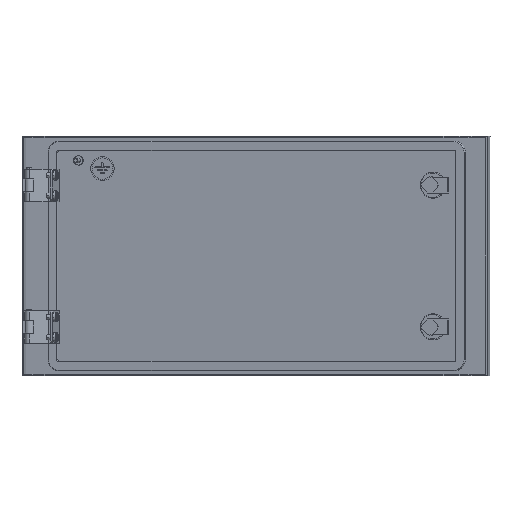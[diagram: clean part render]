
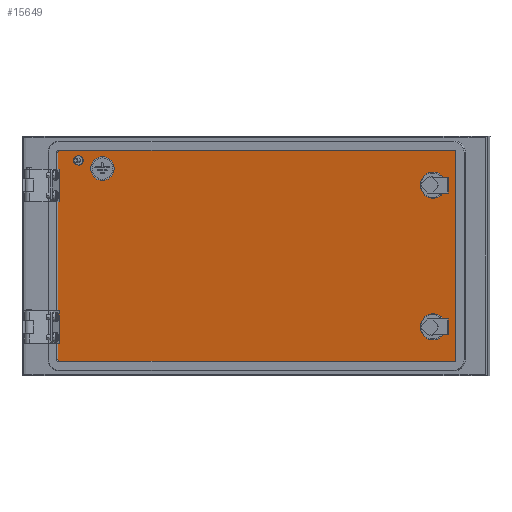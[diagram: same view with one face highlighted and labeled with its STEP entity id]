
A CAD part, left-side view. The second image highlights one B-rep face of the part: STEP entity #15649.
In plain terms, the highlighted planar face has unit normal (-0.966, 0.259, 0).
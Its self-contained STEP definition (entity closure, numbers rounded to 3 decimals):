
#82 = DIRECTION ( 'NONE',  ( -0.966, 0.259, 0. ) ) ;
#333 = CIRCLE ( 'NONE', #9699, 16. ) ;
#526 = VERTEX_POINT ( 'NONE', #2075 ) ;
#841 = LINE ( 'NONE', #3754, #7062 ) ;
#845 = EDGE_LOOP ( 'NONE', ( #6889, #17902 ) ) ;
#926 = CARTESIAN_POINT ( 'NONE',  ( 64.256, 218.327, 117.012 ) ) ;
#1052 = DIRECTION ( 'NONE',  ( 0.259, 0.966, 0. ) ) ;
#1316 = CARTESIAN_POINT ( 'NONE',  ( 70.721, 242.477, 129.012 ) ) ;
#1548 = CARTESIAN_POINT ( 'NONE',  ( 70.721, 242.477, -128.988 ) ) ;
#2075 = CARTESIAN_POINT ( 'NONE',  ( 71.238, 244.409, -128.988 ) ) ;
#2294 = CARTESIAN_POINT ( 'NONE',  ( -52.879, -219.267, 86.512 ) ) ;
#2305 = ORIENTED_EDGE ( 'NONE', *, *, #20624, .F. ) ;
#2410 = DIRECTION ( 'NONE',  ( -0.966, 0.259, 0. ) ) ;
#2488 = CARTESIAN_POINT ( 'NONE',  ( -59.86, -245.349, 129.012 ) ) ;
#2516 = DIRECTION ( 'NONE',  ( 0., 0., -1. ) ) ;
#2529 = CARTESIAN_POINT ( 'NONE',  ( 64.92, 220.804, 117.679 ) ) ;
#2620 = CARTESIAN_POINT ( 'NONE',  ( -52.879, -219.267, -88.488 ) ) ;
#2625 = ORIENTED_EDGE ( 'NONE', *, *, #16552, .F. ) ;
#2691 = DIRECTION ( 'NONE',  ( 0.966, -0.259, 0. ) ) ;
#2927 = AXIS2_PLACEMENT_3D ( 'NONE', #8180, #14784, #12990 ) ;
#2975 = ORIENTED_EDGE ( 'NONE', *, *, #12901, .F. ) ;
#2977 = LINE ( 'NONE', #1316, #17827 ) ;
#3293 = DIRECTION ( 'NONE',  ( -0.966, 0.259, 0. ) ) ;
#3461 = AXIS2_PLACEMENT_3D ( 'NONE', #10222, #13570, #3819 ) ;
#3754 = CARTESIAN_POINT ( 'NONE',  ( 70.721, 242.477, -130.988 ) ) ;
#3767 = AXIS2_PLACEMENT_3D ( 'NONE', #7883, #2410, #2516 ) ;
#3792 = EDGE_CURVE ( 'NONE', #5331, #20006, #2977, .T. ) ;
#3819 = DIRECTION ( 'NONE',  ( 0.259, 0.966, 0. ) ) ;
#3956 = AXIS2_PLACEMENT_3D ( 'NONE', #10422, #18527, #20208 ) ;
#3961 = CARTESIAN_POINT ( 'NONE',  ( 63.593, 215.849, 116.346 ) ) ;
#3977 = DIRECTION ( 'NONE',  ( -0.966, 0.259, 0. ) ) ;
#4160 = DIRECTION ( 'NONE',  ( 0., 0., -1. ) ) ;
#4163 = CARTESIAN_POINT ( 'NONE',  ( 70.721, 242.477, -130.988 ) ) ;
#4292 = AXIS2_PLACEMENT_3D ( 'NONE', #20129, #2691, #13700 ) ;
#4427 = ORIENTED_EDGE ( 'NONE', *, *, #10398, .F. ) ;
#4484 = ORIENTED_EDGE ( 'NONE', *, *, #15399, .F. ) ;
#4639 = CARTESIAN_POINT ( 'NONE',  ( 70.721, 242.477, 129.012 ) ) ;
#4782 = CIRCLE ( 'NONE', #15844, 15. ) ;
#4992 = FACE_BOUND ( 'NONE', #845, .T. ) ;
#5189 = EDGE_LOOP ( 'NONE', ( #8443, #4427 ) ) ;
#5190 = ORIENTED_EDGE ( 'NONE', *, *, #7684, .F. ) ;
#5331 = VERTEX_POINT ( 'NONE', #4639 ) ;
#5414 = AXIS2_PLACEMENT_3D ( 'NONE', #926, #9291, #5927 ) ;
#5596 = VERTEX_POINT ( 'NONE', #2529 ) ;
#5614 = EDGE_CURVE ( 'NONE', #17210, #11796, #333, .T. ) ;
#5638 = CARTESIAN_POINT ( 'NONE',  ( -60.378, -247.281, -128.988 ) ) ;
#5751 = DIRECTION ( 'NONE',  ( -0.966, 0.259, 0. ) ) ;
#5840 = VERTEX_POINT ( 'NONE', #3961 ) ;
#5927 = DIRECTION ( 'NONE',  ( 0.259, 0.966, 0. ) ) ;
#6306 = CARTESIAN_POINT ( 'NONE',  ( -60.378, -247.281, 127.012 ) ) ;
#6406 = CARTESIAN_POINT ( 'NONE',  ( -48.742, -203.811, -88.488 ) ) ;
#6572 = EDGE_CURVE ( 'NONE', #12644, #10261, #841, .T. ) ;
#6574 = FACE_OUTER_BOUND ( 'NONE', #19882, .T. ) ;
#6694 = CIRCLE ( 'NONE', #7375, 16. ) ;
#6766 = VERTEX_POINT ( 'NONE', #7728 ) ;
#6800 = VERTEX_POINT ( 'NONE', #9702 ) ;
#6889 = ORIENTED_EDGE ( 'NONE', *, *, #5614, .F. ) ;
#7062 = VECTOR ( 'NONE', #8478, 1000. ) ;
#7150 = CIRCLE ( 'NONE', #3461, 16. ) ;
#7375 = AXIS2_PLACEMENT_3D ( 'NONE', #2294, #5751, #10580 ) ;
#7476 = ORIENTED_EDGE ( 'NONE', *, *, #10311, .T. ) ;
#7684 = EDGE_CURVE ( 'NONE', #19400, #7719, #14181, .T. ) ;
#7719 = VERTEX_POINT ( 'NONE', #5638 ) ;
#7728 = CARTESIAN_POINT ( 'NONE',  ( -57.016, -234.723, 86.512 ) ) ;
#7883 = CARTESIAN_POINT ( 'NONE',  ( -59.86, -245.349, -128.988 ) ) ;
#8180 = CARTESIAN_POINT ( 'NONE',  ( -59.86, -245.349, 127.012 ) ) ;
#8443 = ORIENTED_EDGE ( 'NONE', *, *, #20266, .F. ) ;
#8478 = DIRECTION ( 'NONE',  ( -0.259, -0.966, 0. ) ) ;
#8772 = CARTESIAN_POINT ( 'NONE',  ( -11.765, -65.674, 790.512 ) ) ;
#9291 = DIRECTION ( 'NONE',  ( -0.966, 0.259, 0. ) ) ;
#9308 = CIRCLE ( 'NONE', #4292, 2. ) ;
#9329 = CIRCLE ( 'NONE', #18735, 2. ) ;
#9428 = VECTOR ( 'NONE', #16658, 1000. ) ;
#9699 = AXIS2_PLACEMENT_3D ( 'NONE', #13749, #20177, #19217 ) ;
#9702 = CARTESIAN_POINT ( 'NONE',  ( -48.742, -203.811, 86.512 ) ) ;
#10161 = LINE ( 'NONE', #13187, #9428 ) ;
#10222 = CARTESIAN_POINT ( 'NONE',  ( -52.879, -219.267, 86.512 ) ) ;
#10261 = VERTEX_POINT ( 'NONE', #18894 ) ;
#10267 = EDGE_CURVE ( 'NONE', #5596, #5840, #14350, .T. ) ;
#10311 = EDGE_CURVE ( 'NONE', #526, #12644, #9329, .T. ) ;
#10320 = CIRCLE ( 'NONE', #3956, 15. ) ;
#10398 = EDGE_CURVE ( 'NONE', #14526, #11719, #10320, .T. ) ;
#10422 = CARTESIAN_POINT ( 'NONE',  ( 56.499, 189.347, 107.012 ) ) ;
#10580 = DIRECTION ( 'NONE',  ( 0.259, 0.966, 0. ) ) ;
#10638 = AXIS2_PLACEMENT_3D ( 'NONE', #2620, #3977, #13735 ) ;
#11393 = FACE_BOUND ( 'NONE', #14511, .T. ) ;
#11627 = EDGE_CURVE ( 'NONE', #5840, #5596, #14460, .T. ) ;
#11719 = VERTEX_POINT ( 'NONE', #19786 ) ;
#11796 = VERTEX_POINT ( 'NONE', #15146 ) ;
#11911 = VECTOR ( 'NONE', #19035, 1000. ) ;
#12016 = PLANE ( 'NONE',  #13394 ) ;
#12227 = FACE_BOUND ( 'NONE', #5189, .T. ) ;
#12601 = CARTESIAN_POINT ( 'NONE',  ( -60.378, -247.281, 127.012 ) ) ;
#12644 = VERTEX_POINT ( 'NONE', #4163 ) ;
#12825 = DIRECTION ( 'NONE',  ( -0.259, -0.966, 0. ) ) ;
#12851 = ORIENTED_EDGE ( 'NONE', *, *, #10267, .F. ) ;
#12901 = EDGE_CURVE ( 'NONE', #6800, #6766, #7150, .T. ) ;
#12938 = DIRECTION ( 'NONE',  ( 0.259, 0.966, 0. ) ) ;
#12990 = DIRECTION ( 'NONE',  ( 0., 0., 1. ) ) ;
#13076 = EDGE_LOOP ( 'NONE', ( #16537, #12851 ) ) ;
#13177 = CARTESIAN_POINT ( 'NONE',  ( 71.238, 244.409, 127.012 ) ) ;
#13187 = CARTESIAN_POINT ( 'NONE',  ( 71.238, 244.409, -0.988 ) ) ;
#13394 = AXIS2_PLACEMENT_3D ( 'NONE', #8772, #18437, #4160 ) ;
#13570 = DIRECTION ( 'NONE',  ( -0.966, 0.259, 0. ) ) ;
#13700 = DIRECTION ( 'NONE',  ( 0.259, 0.966, 0. ) ) ;
#13735 = DIRECTION ( 'NONE',  ( 0.259, 0.966, 0. ) ) ;
#13749 = CARTESIAN_POINT ( 'NONE',  ( -52.879, -219.267, -88.488 ) ) ;
#14181 = LINE ( 'NONE', #12601, #11911 ) ;
#14309 = CIRCLE ( 'NONE', #2927, 2. ) ;
#14350 = CIRCLE ( 'NONE', #15023, 2.65 ) ;
#14460 = CIRCLE ( 'NONE', #5414, 2.65 ) ;
#14511 = EDGE_LOOP ( 'NONE', ( #2975, #4484 ) ) ;
#14526 = VERTEX_POINT ( 'NONE', #18777 ) ;
#14784 = DIRECTION ( 'NONE',  ( 0.966, -0.259, 0. ) ) ;
#15023 = AXIS2_PLACEMENT_3D ( 'NONE', #16988, #15403, #1052 ) ;
#15146 = CARTESIAN_POINT ( 'NONE',  ( -57.016, -234.723, -88.488 ) ) ;
#15399 = EDGE_CURVE ( 'NONE', #6766, #6800, #6694, .T. ) ;
#15403 = DIRECTION ( 'NONE',  ( -0.966, 0.259, 0. ) ) ;
#15649 = ADVANCED_FACE ( 'NONE', ( #6574, #4992, #11393, #17808, #12227 ), #12016, .F. ) ;
#15844 = AXIS2_PLACEMENT_3D ( 'NONE', #17899, #3293, #12938 ) ;
#15872 = ORIENTED_EDGE ( 'NONE', *, *, #18581, .F. ) ;
#16514 = VERTEX_POINT ( 'NONE', #13177 ) ;
#16537 = ORIENTED_EDGE ( 'NONE', *, *, #11627, .F. ) ;
#16552 = EDGE_CURVE ( 'NONE', #16514, #5331, #9308, .T. ) ;
#16658 = DIRECTION ( 'NONE',  ( 0., 0., 1. ) ) ;
#16988 = CARTESIAN_POINT ( 'NONE',  ( 64.256, 218.327, 117.012 ) ) ;
#17015 = CIRCLE ( 'NONE', #10638, 16. ) ;
#17210 = VERTEX_POINT ( 'NONE', #6406 ) ;
#17247 = ORIENTED_EDGE ( 'NONE', *, *, #3792, .F. ) ;
#17599 = DIRECTION ( 'NONE',  ( 0.259, 0.966, 0. ) ) ;
#17808 = FACE_BOUND ( 'NONE', #13076, .T. ) ;
#17827 = VECTOR ( 'NONE', #12825, 1000. ) ;
#17899 = CARTESIAN_POINT ( 'NONE',  ( 56.499, 189.347, 107.012 ) ) ;
#17902 = ORIENTED_EDGE ( 'NONE', *, *, #20773, .F. ) ;
#18437 = DIRECTION ( 'NONE',  ( 0.966, -0.259, 0. ) ) ;
#18527 = DIRECTION ( 'NONE',  ( -0.966, 0.259, 0. ) ) ;
#18581 = EDGE_CURVE ( 'NONE', #526, #16514, #10161, .T. ) ;
#18735 = AXIS2_PLACEMENT_3D ( 'NONE', #1548, #82, #17599 ) ;
#18777 = CARTESIAN_POINT ( 'NONE',  ( 52.62, 174.857, 107.012 ) ) ;
#18879 = CIRCLE ( 'NONE', #3767, 2. ) ;
#18894 = CARTESIAN_POINT ( 'NONE',  ( -59.86, -245.349, -130.988 ) ) ;
#19035 = DIRECTION ( 'NONE',  ( 0., 0., -1. ) ) ;
#19217 = DIRECTION ( 'NONE',  ( 0.259, 0.966, 0. ) ) ;
#19400 = VERTEX_POINT ( 'NONE', #6306 ) ;
#19535 = EDGE_CURVE ( 'NONE', #10261, #7719, #18879, .T. ) ;
#19786 = CARTESIAN_POINT ( 'NONE',  ( 60.378, 203.837, 107.012 ) ) ;
#19882 = EDGE_LOOP ( 'NONE', ( #15872, #7476, #20235, #20064, #5190, #2305, #17247, #2625 ) ) ;
#20006 = VERTEX_POINT ( 'NONE', #2488 ) ;
#20064 = ORIENTED_EDGE ( 'NONE', *, *, #19535, .T. ) ;
#20129 = CARTESIAN_POINT ( 'NONE',  ( 70.721, 242.477, 127.012 ) ) ;
#20177 = DIRECTION ( 'NONE',  ( -0.966, 0.259, 0. ) ) ;
#20208 = DIRECTION ( 'NONE',  ( 0.259, 0.966, 0. ) ) ;
#20235 = ORIENTED_EDGE ( 'NONE', *, *, #6572, .T. ) ;
#20266 = EDGE_CURVE ( 'NONE', #11719, #14526, #4782, .T. ) ;
#20624 = EDGE_CURVE ( 'NONE', #20006, #19400, #14309, .T. ) ;
#20773 = EDGE_CURVE ( 'NONE', #11796, #17210, #17015, .T. ) ;
